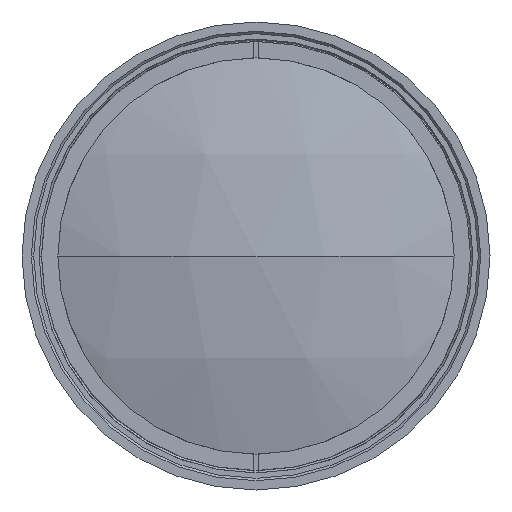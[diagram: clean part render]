
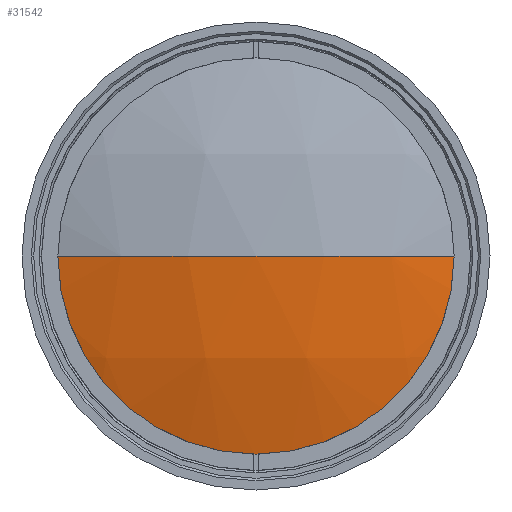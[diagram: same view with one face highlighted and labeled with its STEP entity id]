
A CAD part, left-side view. The second image highlights one B-rep face of the part: STEP entity #31542.
In plain terms, the highlighted spherical face has radius 105 mm.
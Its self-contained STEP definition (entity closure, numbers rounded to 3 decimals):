
#567 = CIRCLE ( 'NONE', #38862, 32.2 ) ;
#1968 = DIRECTION ( 'NONE',  ( 0., 0., -1. ) ) ;
#3150 = ORIENTED_EDGE ( 'NONE', *, *, #20263, .F. ) ;
#3176 = SPHERICAL_SURFACE ( 'NONE', #13686, 105. ) ;
#5465 = ORIENTED_EDGE ( 'NONE', *, *, #45888, .T. ) ;
#6421 = AXIS2_PLACEMENT_3D ( 'NONE', #41171, #19428, #44832 ) ;
#11623 = DIRECTION ( 'NONE',  ( -1., 0., 0. ) ) ;
#12837 = CARTESIAN_POINT ( 'NONE',  ( 5.059, 32.2, 0. ) ) ;
#12881 = CIRCLE ( 'NONE', #26168, 105. ) ;
#13686 = AXIS2_PLACEMENT_3D ( 'NONE', #45577, #1968, #27465 ) ;
#13881 = DIRECTION ( 'NONE',  ( 0., 0., -1. ) ) ;
#17645 = VERTEX_POINT ( 'NONE', #26564 ) ;
#18609 = EDGE_CURVE ( 'NONE', #17645, #42166, #12881, .T. ) ;
#19428 = DIRECTION ( 'NONE',  ( -1., 0., 0. ) ) ;
#20263 = EDGE_CURVE ( 'NONE', #33175, #42166, #42316, .T. ) ;
#20596 = DIRECTION ( 'NONE',  ( 0., 0., 1. ) ) ;
#22076 = FACE_OUTER_BOUND ( 'NONE', #39661, .T. ) ;
#26168 = AXIS2_PLACEMENT_3D ( 'NONE', #35690, #13881, #39369 ) ;
#26505 = AXIS2_PLACEMENT_3D ( 'NONE', #42353, #20596, #46032 ) ;
#26564 = CARTESIAN_POINT ( 'NONE',  ( 5.059, -32.2, 0. ) ) ;
#27187 = ORIENTED_EDGE ( 'NONE', *, *, #18609, .T. ) ;
#27465 = DIRECTION ( 'NONE',  ( 0., 1., 0. ) ) ;
#31542 = ADVANCED_FACE ( 'NONE', ( #22076 ), #3176, .T. ) ;
#32284 = ORIENTED_EDGE ( 'NONE', *, *, #37280, .T. ) ;
#33175 = VERTEX_POINT ( 'NONE', #12837 ) ;
#33356 = CARTESIAN_POINT ( 'NONE',  ( 5.059, 0., -32.2 ) ) ;
#33422 = CARTESIAN_POINT ( 'NONE',  ( 5.059, 0., 0. ) ) ;
#33894 = CIRCLE ( 'NONE', #6421, 32.2 ) ;
#35690 = CARTESIAN_POINT ( 'NONE',  ( 105., 0., 0. ) ) ;
#37119 = DIRECTION ( 'NONE',  ( 0., 0., 1. ) ) ;
#37280 = EDGE_CURVE ( 'NONE', #37901, #17645, #567, .T. ) ;
#37901 = VERTEX_POINT ( 'NONE', #33356 ) ;
#38862 = AXIS2_PLACEMENT_3D ( 'NONE', #33422, #11623, #37119 ) ;
#39369 = DIRECTION ( 'NONE',  ( 0., 1., 0. ) ) ;
#39661 = EDGE_LOOP ( 'NONE', ( #32284, #27187, #3150, #5465 ) ) ;
#41171 = CARTESIAN_POINT ( 'NONE',  ( 5.059, 0., 0. ) ) ;
#42166 = VERTEX_POINT ( 'NONE', #45553 ) ;
#42316 = CIRCLE ( 'NONE', #26505, 105. ) ;
#42353 = CARTESIAN_POINT ( 'NONE',  ( 105., 0., 0. ) ) ;
#44832 = DIRECTION ( 'NONE',  ( 0., 0., 1. ) ) ;
#45553 = CARTESIAN_POINT ( 'NONE',  ( 0., 0., 0. ) ) ;
#45577 = CARTESIAN_POINT ( 'NONE',  ( 105., 0., 0. ) ) ;
#45888 = EDGE_CURVE ( 'NONE', #33175, #37901, #33894, .T. ) ;
#46032 = DIRECTION ( 'NONE',  ( 1., 0., 0. ) ) ;
